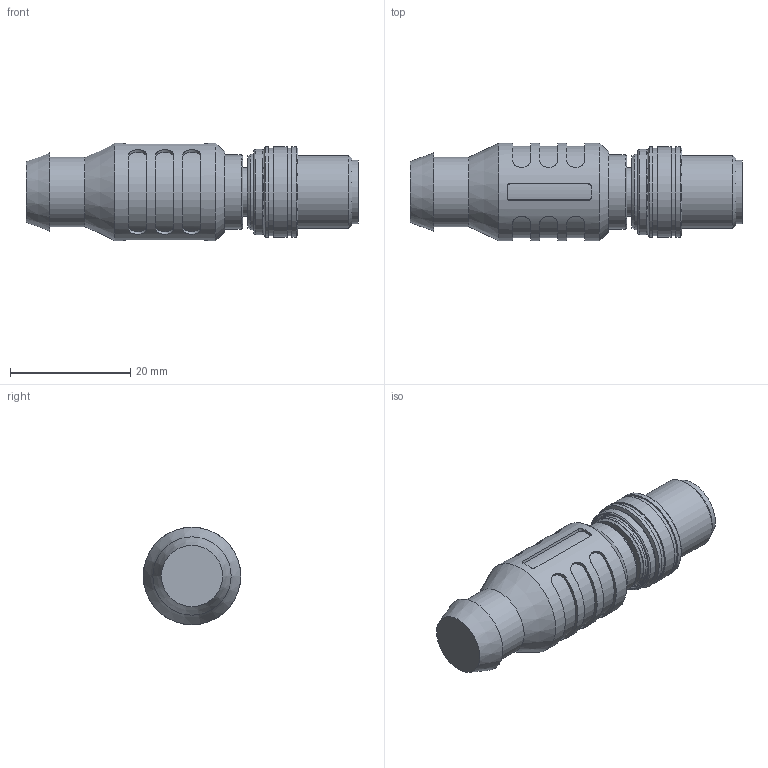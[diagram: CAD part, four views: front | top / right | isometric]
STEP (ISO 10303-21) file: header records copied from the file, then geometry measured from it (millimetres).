
FILE_DESCRIPTION((''),'2;1');
FILE_NAME('C:\TurckZip\MFGD0010.stp','2007-09-05T13:47:41',('IKOROL'),(''),'Autodesk Inventor 11','Autodesk Inventor 11','');
FILE_SCHEMA(('AUTOMOTIVE_DESIGN { 1 0 10303 214 1 1 1 1 }'));
Length unit declared in the file: millimetre
Products named in the file (1): Part3
Bounding box: 55.2 x 16.21 x 16.21 mm (x, y, z)
Volume: 7172.8 mm3; surface area: 4531.8 mm2
Topology: 2 solids, 2 shells, 136 faces, 340 edges, 225 vertices
Faces by surface type: cylinder 60, plane 48, torus 11, bspline 10, cone 7
Full cylindrical faces by diameter (mm): 1.8 x1, 8 x1, 8.3 x1, 9.4 x1, 9.8 x1, 9.9 x1, 10.5 x1, 10.8 x1, 11 x1, 11.503 x1, 12 x1, 12.311 x1, 12.5 x1, 14.2 x1, 14.5 x2, 15 x3, 16.206 x1
Entity records: 5108 total; most frequent: CARTESIAN_POINT 2129, DIRECTION 589, ORIENTED_EDGE 576, EDGE_CURVE 288, AXIS2_PLACEMENT_3D 255, VERTEX_POINT 213, EDGE_LOOP 199, FACE_OUTER_BOUND 136
